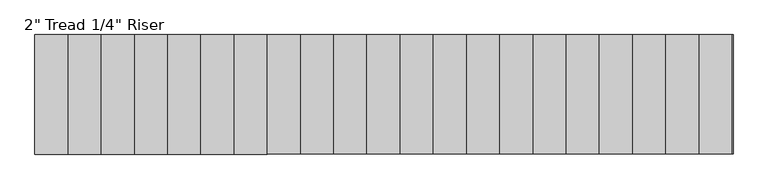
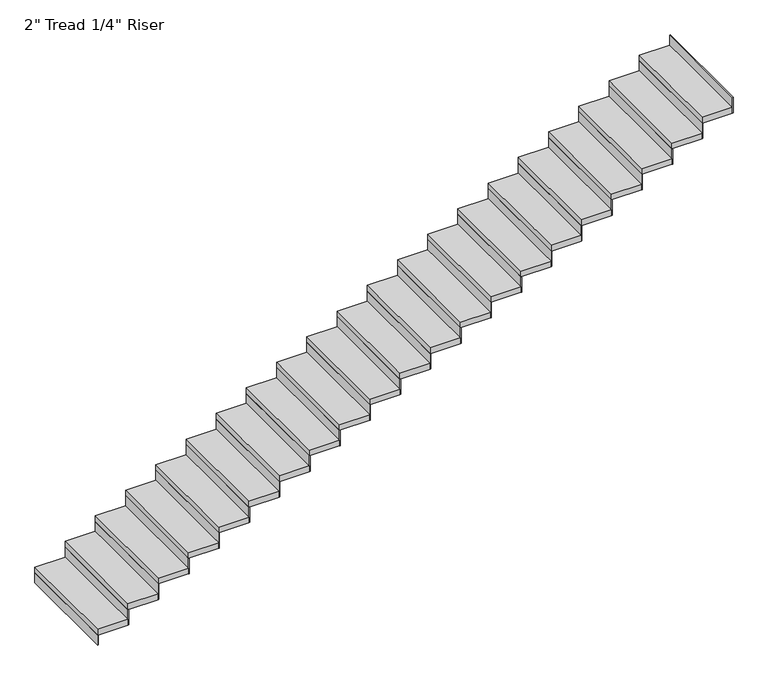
"""IFC4 building model written with IfcOpenShell, lengths in millimetres: stair flight geometry."""

from ifc_helpers import new_model, si_unit, frame, origin, origin_with_axes, place, context, project, spatial, polyline, outline, extrude, source, transform, mapped, element, save


def stair_flight_deab16ef(model_context):
    return source(origin(), model_context, "Body", "SweptSolid", [
        extrude(outline(polyline([(60465.2405484, -52193.6426165), (60458.8905484, -52193.6426165), (60458.8905484, -51279.2426165), (60465.2405484, -51279.2426165), (60465.2405484, -52193.6426165)])), origin_with_axes(), (0.0, 0.0, 1.0), 87.7454545),
        extrude(outline(polyline([(60712.8905484, -51279.2426165), (60712.8905484, -52193.6426165), (60458.8905484, -52193.6426165), (60458.8905484, -51279.2426165), (60712.8905484, -51279.2426165)])), frame((0.0, 0.0, 87.7454545), z_axis=(0.0, 0.0, 1.0), x_axis=(1.0, 0.0, 0.0)), (0.0, 0.0, 1.0), 50.8),
        extrude(outline(polyline([(60719.2405484, -52193.6426165), (60712.8905484, -52193.6426165), (60712.8905484, -51279.2426165), (60719.2405484, -51279.2426165), (60719.2405484, -52193.6426165)])), frame((0.0, 0.0, 87.7454545), z_axis=(0.0, 0.0, 1.0), x_axis=(1.0, 0.0, 0.0)), (0.0, 0.0, 1.0), 138.5454545),
        extrude(outline(polyline([(60966.8905484, -51279.2426165), (60966.8905484, -52193.6426165), (60712.8905484, -52193.6426165), (60712.8905484, -51279.2426165), (60966.8905484, -51279.2426165)])), frame((0.0, 0.0, 226.2909091), z_axis=(0.0, 0.0, 1.0), x_axis=(1.0, 0.0, 0.0)), (0.0, 0.0, 1.0), 50.8),
        extrude(outline(polyline([(60973.2405484, -52193.6426165), (60966.8905484, -52193.6426165), (60966.8905484, -51279.2426165), (60973.2405484, -51279.2426165), (60973.2405484, -52193.6426165)])), frame((0.0, 0.0, 226.2909091), z_axis=(0.0, 0.0, 1.0), x_axis=(1.0, 0.0, 0.0)), (0.0, 0.0, 1.0), 138.5454545),
        extrude(outline(polyline([(61220.8905484, -51279.2426165), (61220.8905484, -52193.6426165), (60966.8905484, -52193.6426165), (60966.8905484, -51279.2426165), (61220.8905484, -51279.2426165)])), frame((0.0, 0.0, 364.8363636), z_axis=(0.0, 0.0, 1.0), x_axis=(1.0, 0.0, 0.0)), (0.0, 0.0, 1.0), 50.8),
        extrude(outline(polyline([(61227.2405484, -52193.6426165), (61220.8905484, -52193.6426165), (61220.8905484, -51279.2426165), (61227.2405484, -51279.2426165), (61227.2405484, -52193.6426165)])), frame((0.0, 0.0, 364.8363636), z_axis=(0.0, 0.0, 1.0), x_axis=(1.0, 0.0, 0.0)), (0.0, 0.0, 1.0), 138.5454545),
        extrude(outline(polyline([(61474.8905484, -51279.2426165), (61474.8905484, -52193.6426165), (61220.8905484, -52193.6426165), (61220.8905484, -51279.2426165), (61474.8905484, -51279.2426165)])), frame((0.0, 0.0, 503.3818182), z_axis=(0.0, 0.0, 1.0), x_axis=(1.0, 0.0, 0.0)), (0.0, 0.0, 1.0), 50.8),
        extrude(outline(polyline([(61481.2405484, -52193.6426165), (61474.8905484, -52193.6426165), (61474.8905484, -51279.2426165), (61481.2405484, -51279.2426165), (61481.2405484, -52193.6426165)])), frame((0.0, 0.0, 503.3818182), z_axis=(0.0, 0.0, 1.0), x_axis=(1.0, 0.0, 0.0)), (0.0, 0.0, 1.0), 138.5454545),
        extrude(outline(polyline([(61728.8905484, -51279.2426165), (61728.8905484, -52193.6426165), (61474.8905484, -52193.6426165), (61474.8905484, -51279.2426165), (61728.8905484, -51279.2426165)])), frame((0.0, 0.0, 641.9272727), z_axis=(0.0, 0.0, 1.0), x_axis=(1.0, 0.0, 0.0)), (0.0, 0.0, 1.0), 50.8),
        extrude(outline(polyline([(61735.2405484, -52193.6426165), (61728.8905484, -52193.6426165), (61728.8905484, -51279.2426165), (61735.2405484, -51279.2426165), (61735.2405484, -52193.6426165)])), frame((0.0, 0.0, 641.9272727), z_axis=(0.0, 0.0, 1.0), x_axis=(1.0, 0.0, 0.0)), (0.0, 0.0, 1.0), 138.5454545),
        extrude(outline(polyline([(61982.8905484, -51279.2426165), (61982.8905484, -52193.6426165), (61728.8905484, -52193.6426165), (61728.8905484, -51279.2426165), (61982.8905484, -51279.2426165)])), frame((0.0, 0.0, 780.4727273), z_axis=(0.0, 0.0, 1.0), x_axis=(1.0, 0.0, 0.0)), (0.0, 0.0, 1.0), 50.8),
        extrude(outline(polyline([(61989.2405484, -52193.6426165), (61982.8905484, -52193.6426165), (61982.8905484, -51279.2426165), (61989.2405484, -51279.2426165), (61989.2405484, -52193.6426165)])), frame((0.0, 0.0, 780.4727273), z_axis=(0.0, 0.0, 1.0), x_axis=(1.0, 0.0, 0.0)), (0.0, 0.0, 1.0), 138.5454545),
        extrude(outline(polyline([(62236.8905484, -51279.2426165), (62236.8905484, -52193.6426165), (61982.8905484, -52193.6426165), (61982.8905484, -51279.2426165), (62236.8905484, -51279.2426165)])), frame((0.0, 0.0, 919.0181818), z_axis=(0.0, 0.0, 1.0), x_axis=(1.0, 0.0, 0.0)), (0.0, 0.0, 1.0), 50.8),
        extrude(outline(polyline([(62243.2405484, -52193.6426165), (62236.8905484, -52193.6426165), (62236.8905484, -51279.2426165), (62243.2405484, -51279.2426165), (62243.2405484, -52193.6426165)])), frame((0.0, 0.0, 919.0181818), z_axis=(0.0, 0.0, 1.0), x_axis=(1.0, 0.0, 0.0)), (0.0, 0.0, 1.0), 138.5454545),
        extrude(outline(polyline([(62490.8905484, -51279.2426165), (62490.8905484, -52193.6426165), (62236.8905484, -52193.6426165), (62236.8905484, -51279.2426165), (62490.8905484, -51279.2426165)])), frame((0.0, 0.0, 1057.5636364), z_axis=(0.0, 0.0, 1.0), x_axis=(1.0, 0.0, 0.0)), (0.0, 0.0, 1.0), 50.8),
        extrude(outline(polyline([(62497.2405484, -52193.6426165), (62490.8905484, -52193.6426165), (62490.8905484, -51279.2426165), (62497.2405484, -51279.2426165), (62497.2405484, -52193.6426165)])), frame((0.0, 0.0, 1057.5636364), z_axis=(0.0, 0.0, 1.0), x_axis=(1.0, 0.0, 0.0)), (0.0, 0.0, 1.0), 138.5454545),
        extrude(outline(polyline([(62744.8905484, -51279.2426165), (62744.8905484, -52193.6426165), (62490.8905484, -52193.6426165), (62490.8905484, -51279.2426165), (62744.8905484, -51279.2426165)])), frame((0.0, 0.0, 1196.1090909), z_axis=(0.0, 0.0, 1.0), x_axis=(1.0, 0.0, 0.0)), (0.0, 0.0, 1.0), 50.8),
        extrude(outline(polyline([(62751.2405484, -52193.6426165), (62744.8905484, -52193.6426165), (62744.8905484, -51279.2426165), (62751.2405484, -51279.2426165), (62751.2405484, -52193.6426165)])), frame((0.0, 0.0, 1196.1090909), z_axis=(0.0, 0.0, 1.0), x_axis=(1.0, 0.0, 0.0)), (0.0, 0.0, 1.0), 138.5454545),
        extrude(outline(polyline([(62998.8905484, -51279.2426165), (62998.8905484, -52193.6426165), (62744.8905484, -52193.6426165), (62744.8905484, -51279.2426165), (62998.8905484, -51279.2426165)])), frame((0.0, 0.0, 1334.6545455), z_axis=(0.0, 0.0, 1.0), x_axis=(1.0, 0.0, 0.0)), (0.0, 0.0, 1.0), 50.8),
        extrude(outline(polyline([(63005.2405484, -52193.6426165), (62998.8905484, -52193.6426165), (62998.8905484, -51279.2426165), (63005.2405484, -51279.2426165), (63005.2405484, -52193.6426165)])), frame((0.0, 0.0, 1334.6545455), z_axis=(0.0, 0.0, 1.0), x_axis=(1.0, 0.0, 0.0)), (0.0, 0.0, 1.0), 138.5454545),
        extrude(outline(polyline([(63252.8905484, -51279.2426165), (63252.8905484, -52193.6426165), (62998.8905484, -52193.6426165), (62998.8905484, -51279.2426165), (63252.8905484, -51279.2426165)])), frame((0.0, 0.0, 1473.2), z_axis=(0.0, 0.0, 1.0), x_axis=(1.0, 0.0, 0.0)), (0.0, 0.0, 1.0), 50.8),
        extrude(outline(polyline([(63259.2405484, -52193.6426165), (63252.8905484, -52193.6426165), (63252.8905484, -51279.2426165), (63259.2405484, -51279.2426165), (63259.2405484, -52193.6426165)])), frame((0.0, 0.0, 1473.2), z_axis=(0.0, 0.0, 1.0), x_axis=(1.0, 0.0, 0.0)), (0.0, 0.0, 1.0), 138.5454545),
        extrude(outline(polyline([(63506.8905484, -51279.2426165), (63506.8905484, -52193.6426165), (63252.8905484, -52193.6426165), (63252.8905484, -51279.2426165), (63506.8905484, -51279.2426165)])), frame((0.0, 0.0, 1611.7454545), z_axis=(0.0, 0.0, 1.0), x_axis=(1.0, 0.0, 0.0)), (0.0, 0.0, 1.0), 50.8),
        extrude(outline(polyline([(63513.2405484, -52193.6426165), (63506.8905484, -52193.6426165), (63506.8905484, -51279.2426165), (63513.2405484, -51279.2426165), (63513.2405484, -52193.6426165)])), frame((0.0, 0.0, 1611.7454545), z_axis=(0.0, 0.0, 1.0), x_axis=(1.0, 0.0, 0.0)), (0.0, 0.0, 1.0), 138.5454545),
        extrude(outline(polyline([(63760.8905484, -51279.2426165), (63760.8905484, -52193.6426165), (63506.8905484, -52193.6426165), (63506.8905484, -51279.2426165), (63760.8905484, -51279.2426165)])), frame((0.0, 0.0, 1750.2909091), z_axis=(0.0, 0.0, 1.0), x_axis=(1.0, 0.0, 0.0)), (0.0, 0.0, 1.0), 50.8),
        extrude(outline(polyline([(63767.2405484, -52193.6426165), (63760.8905484, -52193.6426165), (63760.8905484, -51279.2426165), (63767.2405484, -51279.2426165), (63767.2405484, -52193.6426165)])), frame((0.0, 0.0, 1750.2909091), z_axis=(0.0, 0.0, 1.0), x_axis=(1.0, 0.0, 0.0)), (0.0, 0.0, 1.0), 138.5454545),
        extrude(outline(polyline([(64014.8905484, -51279.2426165), (64014.8905484, -52193.6426165), (63760.8905484, -52193.6426165), (63760.8905484, -51279.2426165), (64014.8905484, -51279.2426165)])), frame((0.0, 0.0, 1888.8363636), z_axis=(0.0, 0.0, 1.0), x_axis=(1.0, 0.0, 0.0)), (0.0, 0.0, 1.0), 50.8),
        extrude(outline(polyline([(64021.2405484, -52193.6426165), (64014.8905484, -52193.6426165), (64014.8905484, -51279.2426165), (64021.2405484, -51279.2426165), (64021.2405484, -52193.6426165)])), frame((0.0, 0.0, 1888.8363636), z_axis=(0.0, 0.0, 1.0), x_axis=(1.0, 0.0, 0.0)), (0.0, 0.0, 1.0), 138.5454545),
        extrude(outline(polyline([(64268.8905484, -51279.2426165), (64268.8905484, -52193.6426165), (64014.8905484, -52193.6426165), (64014.8905484, -51279.2426165), (64268.8905484, -51279.2426165)])), frame((0.0, 0.0, 2027.3818182), z_axis=(0.0, 0.0, 1.0), x_axis=(1.0, 0.0, 0.0)), (0.0, 0.0, 1.0), 50.8),
        extrude(outline(polyline([(64275.2405484, -52193.6426165), (64268.8905484, -52193.6426165), (64268.8905484, -51279.2426165), (64275.2405484, -51279.2426165), (64275.2405484, -52193.6426165)])), frame((0.0, 0.0, 2027.3818182), z_axis=(0.0, 0.0, 1.0), x_axis=(1.0, 0.0, 0.0)), (0.0, 0.0, 1.0), 138.5454545),
        extrude(outline(polyline([(64522.8905484, -51279.2426165), (64522.8905484, -52193.6426165), (64268.8905484, -52193.6426165), (64268.8905484, -51279.2426165), (64522.8905484, -51279.2426165)])), frame((0.0, 0.0, 2165.9272727), z_axis=(0.0, 0.0, 1.0), x_axis=(1.0, 0.0, 0.0)), (0.0, 0.0, 1.0), 50.8),
        extrude(outline(polyline([(64529.2405484, -52193.6426165), (64522.8905484, -52193.6426165), (64522.8905484, -51279.2426165), (64529.2405484, -51279.2426165), (64529.2405484, -52193.6426165)])), frame((0.0, 0.0, 2165.9272727), z_axis=(0.0, 0.0, 1.0), x_axis=(1.0, 0.0, 0.0)), (0.0, 0.0, 1.0), 138.5454545),
        extrude(outline(polyline([(64776.8905484, -51279.2426165), (64776.8905484, -52193.6426165), (64522.8905484, -52193.6426165), (64522.8905484, -51279.2426165), (64776.8905484, -51279.2426165)])), frame((0.0, 0.0, 2304.4727273), z_axis=(0.0, 0.0, 1.0), x_axis=(1.0, 0.0, 0.0)), (0.0, 0.0, 1.0), 50.8),
        extrude(outline(polyline([(64783.2405484, -52193.6426165), (64776.8905484, -52193.6426165), (64776.8905484, -51279.2426165), (64783.2405484, -51279.2426165), (64783.2405484, -52193.6426165)])), frame((0.0, 0.0, 2304.4727273), z_axis=(0.0, 0.0, 1.0), x_axis=(1.0, 0.0, 0.0)), (0.0, 0.0, 1.0), 138.5454545),
        extrude(outline(polyline([(65030.8905484, -51279.2426165), (65030.8905484, -52193.6426165), (64776.8905484, -52193.6426165), (64776.8905484, -51279.2426165), (65030.8905484, -51279.2426165)])), frame((0.0, 0.0, 2443.0181818), z_axis=(0.0, 0.0, 1.0), x_axis=(1.0, 0.0, 0.0)), (0.0, 0.0, 1.0), 50.8),
        extrude(outline(polyline([(65037.2405484, -52193.6426165), (65030.8905484, -52193.6426165), (65030.8905484, -51279.2426165), (65037.2405484, -51279.2426165), (65037.2405484, -52193.6426165)])), frame((0.0, 0.0, 2443.0181818), z_axis=(0.0, 0.0, 1.0), x_axis=(1.0, 0.0, 0.0)), (0.0, 0.0, 1.0), 138.5454545),
        extrude(outline(polyline([(65284.8905484, -51279.2426165), (65284.8905484, -52193.6426165), (65030.8905484, -52193.6426165), (65030.8905484, -51279.2426165), (65284.8905484, -51279.2426165)])), frame((0.0, 0.0, 2581.5636364), z_axis=(0.0, 0.0, 1.0), x_axis=(1.0, 0.0, 0.0)), (0.0, 0.0, 1.0), 50.8),
        extrude(outline(polyline([(65291.2405484, -52193.6426165), (65284.8905484, -52193.6426165), (65284.8905484, -51279.2426165), (65291.2405484, -51279.2426165), (65291.2405484, -52193.6426165)])), frame((0.0, 0.0, 2581.5636364), z_axis=(0.0, 0.0, 1.0), x_axis=(1.0, 0.0, 0.0)), (0.0, 0.0, 1.0), 138.5454545),
        extrude(outline(polyline([(65538.8905484, -51279.2426165), (65538.8905484, -52193.6426165), (65284.8905484, -52193.6426165), (65284.8905484, -51279.2426165), (65538.8905484, -51279.2426165)])), frame((0.0, 0.0, 2720.1090909), z_axis=(0.0, 0.0, 1.0), x_axis=(1.0, 0.0, 0.0)), (0.0, 0.0, 1.0), 50.8),
        extrude(outline(polyline([(65545.2405484, -52193.6426165), (65538.8905484, -52193.6426165), (65538.8905484, -51279.2426165), (65545.2405484, -51279.2426165), (65545.2405484, -52193.6426165)])), frame((0.0, 0.0, 2720.1090909), z_axis=(0.0, 0.0, 1.0), x_axis=(1.0, 0.0, 0.0)), (0.0, 0.0, 1.0), 138.5454545),
        extrude(outline(polyline([(65799.2405484, -52193.6426165), (65792.8905484, -52193.6426165), (65792.8905484, -51279.2426165), (65799.2405484, -51279.2426165), (65799.2405484, -52193.6426165)])), frame((0.0, 0.0, 2858.6545455), z_axis=(0.0, 0.0, 1.0), x_axis=(1.0, 0.0, 0.0)), (0.0, 0.0, 1.0), 138.5454545),
        extrude(outline(polyline([(65792.8905484, -51279.2426165), (65792.8905484, -52193.6426165), (65538.8905484, -52193.6426165), (65538.8905484, -51279.2426165), (65792.8905484, -51279.2426165)])), frame((0.0, 0.0, 2858.6545455), z_axis=(0.0, 0.0, 1.0), x_axis=(1.0, 0.0, 0.0)), (0.0, 0.0, 1.0), 50.8),
    ])


if __name__ == "__main__":
    model = new_model("IFC4")
    model_context = context("Model", 3, world=origin())
    ifc_project = project(units=[si_unit("LENGTHUNIT", "METRE", prefix="MILLI")], contexts=[model_context])
    site = spatial("IfcSite", under=ifc_project)
    building = spatial("IfcBuilding", under=site)
    placement = place(None, origin())
    stair_flight_shape = stair_flight_deab16ef(model_context)
    element("IfcStairFlight", 1, ObjectType="2\" Tread 1/4\" Riser", at=placement, inside=building, context=model_context, shape_type="MappedRepresentation", body=[
        mapped(stair_flight_shape, transform((0.0, 0.0, 0.0), x_axis=(1.0, 0.0, 0.0), y_axis=(0.0, 1.0, 0.0), z_axis=(0.0, 0.0, 1.0))),
    ])
    save(model, "model.ifc")
